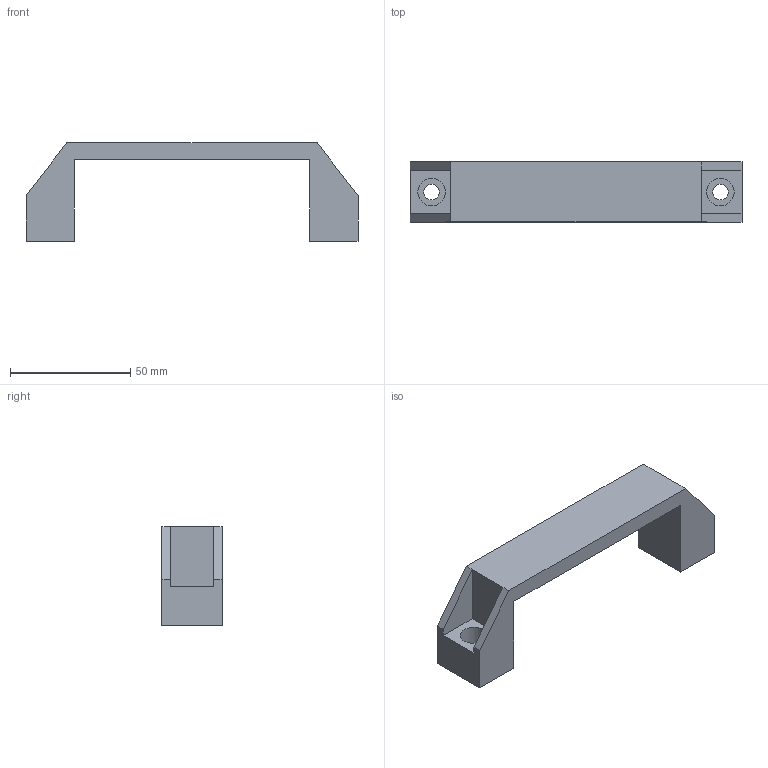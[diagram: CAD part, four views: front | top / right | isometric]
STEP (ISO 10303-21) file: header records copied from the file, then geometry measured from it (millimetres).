
FILE_DESCRIPTION (( 'STEP AP203' ), '1' );
FILE_NAME ('192-CE-HD-120.STEP', '2015-07-09T09:20:31', ( '' ), ( '' ), 'SwSTEP 2.0', 'SolidWorks 2013', '' );
FILE_SCHEMA (( 'CONFIG_CONTROL_DESIGN' ));
Length unit declared in the file: millimetre
Products named in the file (1): 192-CE-HD-120
Bounding box: 138 x 25 x 41 mm (x, y, z)
Volume: 38039.2 mm3; surface area: 16121.3 mm2
Topology: 1 solids, 1 shells, 32 faces, 80 edges, 52 vertices
Faces by surface type: plane 24, cylinder 8
Entity records: 1033 total; most frequent: CARTESIAN_POINT 165, DIRECTION 162, ORIENTED_EDGE 160, EDGE_CURVE 80, LINE 64, VECTOR 64, VERTEX_POINT 52, AXIS2_PLACEMENT_3D 49
